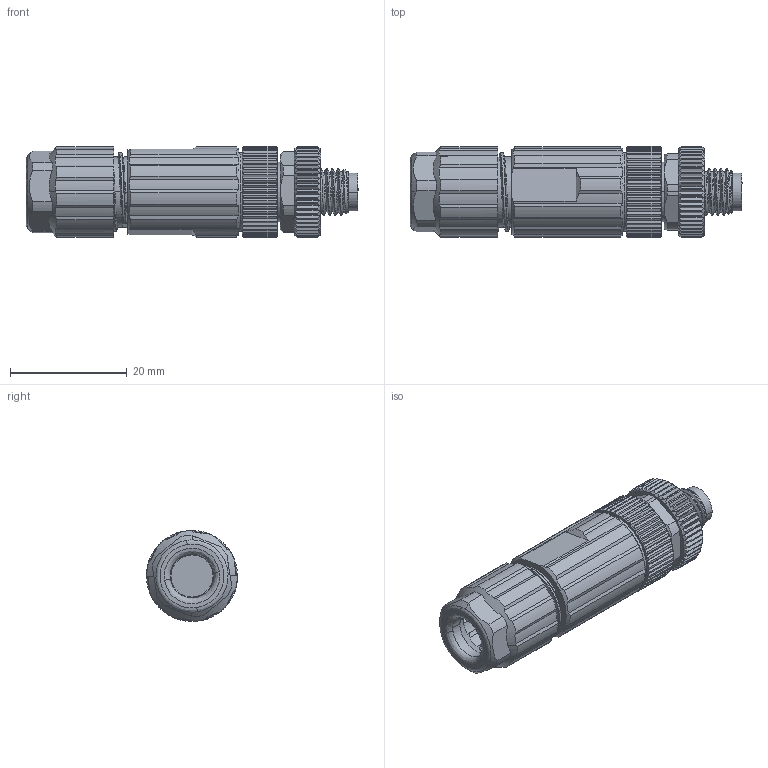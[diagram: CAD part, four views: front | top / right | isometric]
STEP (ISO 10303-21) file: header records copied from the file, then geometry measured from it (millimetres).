
FILE_DESCRIPTION (( 'STEP AP203' ), '1' );
FILE_NAME ('63F441.STEP', '2023-01-30T03:34:58', ( '' ), ( '' ), 'SwSTEP 2.0', 'SolidWorks 2016', '' );
FILE_SCHEMA (( 'CONFIG_CONTROL_DESIGN' ));
Length unit declared in the file: millimetre
Products named in the file (1): 63F441
Bounding box: 56.81 x 15.6 x 15.6 mm (x, y, z)
Volume: 6990.3 mm3; surface area: 7084.3 mm2
Topology: 1 solids, 2 shells, 1036 faces, 3126 edges, 2098 vertices
Faces by surface type: plane 383, cylinder 301, cone 190, bspline 110, torus 52
Entity records: 52167 total; most frequent: CARTESIAN_POINT 26140, ORIENTED_EDGE 6248, DIRECTION 4517, EDGE_CURVE 3124, VERTEX_POINT 2098, AXIS2_PLACEMENT_3D 1803, B_SPLINE_CURVE_WITH_KNOTS 1305, EDGE_LOOP 1076
